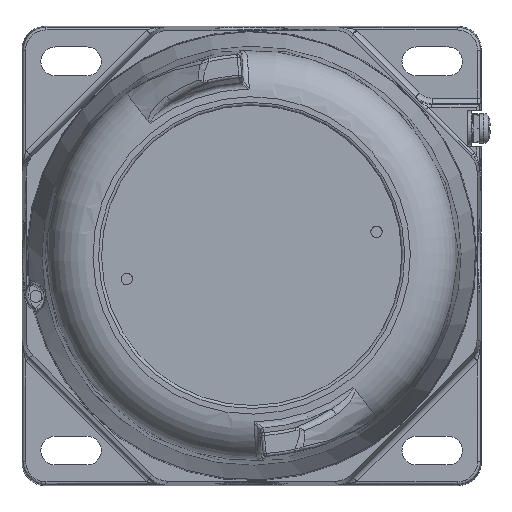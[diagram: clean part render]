
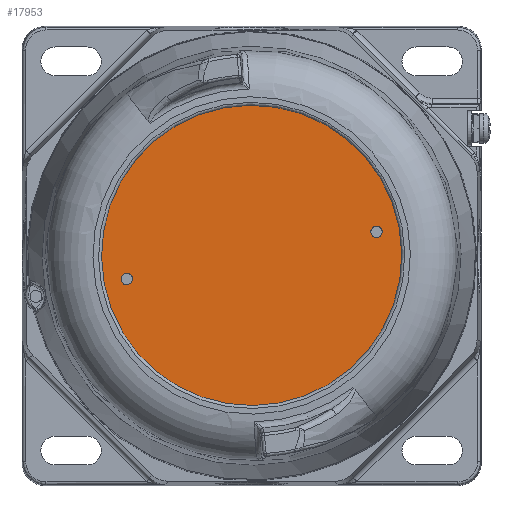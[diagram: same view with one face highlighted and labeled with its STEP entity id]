
A CAD part, top view. The second image highlights one B-rep face of the part: STEP entity #17953.
In plain terms, the highlighted planar face has unit normal (0, 0, 1) as drawn and (0, 1, 0) by its records, which use the part's own axes.
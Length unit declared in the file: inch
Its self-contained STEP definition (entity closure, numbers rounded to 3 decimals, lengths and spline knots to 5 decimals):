
#710=CIRCLE('',#19387,0.0625);
#712=CIRCLE('',#19391,0.0625);
#772=CIRCLE('',#19473,1.625);
#773=CIRCLE('',#19474,1.625);
#854=FACE_BOUND('',#3545,.T.);
#855=FACE_BOUND('',#3546,.T.);
#1387=PLANE('',#19472);
#2487=FACE_OUTER_BOUND('',#3544,.T.);
#3544=EDGE_LOOP('',(#16045,#16046));
#3545=EDGE_LOOP('',(#16047));
#3546=EDGE_LOOP('',(#16048));
#8355=VERTEX_POINT('',#36393);
#8357=VERTEX_POINT('',#36400);
#8434=VERTEX_POINT('',#38040);
#8435=VERTEX_POINT('',#38041);
#10841=EDGE_CURVE('',#8355,#8355,#710,.T.);
#10844=EDGE_CURVE('',#8357,#8357,#712,.T.);
#10974=EDGE_CURVE('',#8434,#8435,#772,.T.);
#10975=EDGE_CURVE('',#8435,#8434,#773,.T.);
#16045=ORIENTED_EDGE('',*,*,#10974,.F.);
#16046=ORIENTED_EDGE('',*,*,#10975,.F.);
#16047=ORIENTED_EDGE('',*,*,#10841,.T.);
#16048=ORIENTED_EDGE('',*,*,#10844,.T.);
#17953=ADVANCED_FACE('',(#2487,#854,#855),#1387,.T.);
#19387=AXIS2_PLACEMENT_3D('',#36395,#23407,#23408);
#19391=AXIS2_PLACEMENT_3D('',#36402,#23416,#23417);
#19472=AXIS2_PLACEMENT_3D('',#38039,#23580,#23581);
#19473=AXIS2_PLACEMENT_3D('',#38042,#23582,#23583);
#19474=AXIS2_PLACEMENT_3D('',#38043,#23584,#23585);
#23407=DIRECTION('center_axis',(0.,-1.,0.));
#23408=DIRECTION('ref_axis',(-1.,0.,0.));
#23416=DIRECTION('center_axis',(0.,-1.,0.));
#23417=DIRECTION('ref_axis',(-1.,0.,0.));
#23580=DIRECTION('center_axis',(0.,1.,0.));
#23581=DIRECTION('ref_axis',(0.,0.,1.));
#23582=DIRECTION('center_axis',(0.,-1.,0.));
#23583=DIRECTION('ref_axis',(1.,0.,0.));
#23584=DIRECTION('center_axis',(0.,-1.,0.));
#23585=DIRECTION('ref_axis',(1.,0.,0.));
#36393=CARTESIAN_POINT('',(0.0625,2.284,1.375));
#36395=CARTESIAN_POINT('Origin',(0.,2.284,1.375));
#36400=CARTESIAN_POINT('',(0.0625,2.284,-1.375));
#36402=CARTESIAN_POINT('Origin',(0.,2.284,-1.375));
#38039=CARTESIAN_POINT('Origin',(0.8125,2.284,0.));
#38040=CARTESIAN_POINT('',(1.625,2.284,0.));
#38041=CARTESIAN_POINT('',(-1.625,2.284,0.));
#38042=CARTESIAN_POINT('Origin',(0.,2.284,0.));
#38043=CARTESIAN_POINT('Origin',(0.,2.284,0.));
